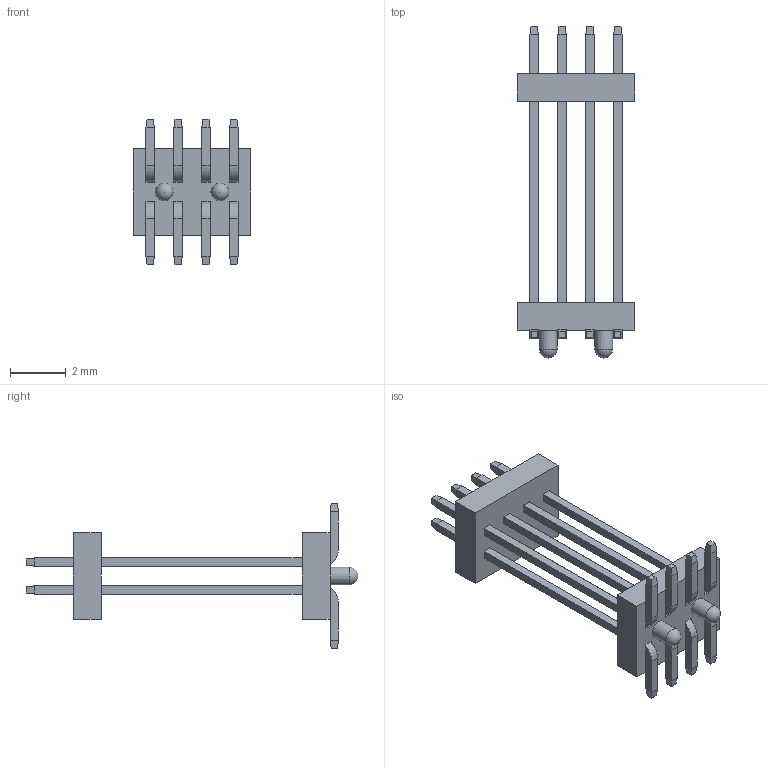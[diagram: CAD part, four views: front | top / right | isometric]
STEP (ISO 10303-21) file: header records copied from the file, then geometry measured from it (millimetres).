
FILE_DESCRIPTION(/* description */ ('STEP AP242','CAx-IF Rec.Pracs.---Representation and Presentation of Product Manufacturing Information (PMI)---4.0---2014-10-13','CAx-IF Rec.Pracs.---3D Tessellated Geometry---0.4---2014-09-14','2;1'),/* implementation_level */ '2;1');
FILE_NAME(/* name */ 'BC055-08A-K1-0170-0950-0520-LB',/* time_stamp */ '2026-06-20T11:46:00+02:00',/* author */ ('License CC BY-ND 4.0'),/* organization */ ('CADENAS'),/* preprocessor_version */ 'ST-DEVELOPER v20',/* originating_system */ 'PARTsolutions',/* authorisation */ ' ');
FILE_SCHEMA (('AP242_MANAGED_MODEL_BASED_3D_ENGINEERING_MIM_LF { 1 0 10303 442 1 1 4 }'));
Length unit declared in the file: millimetre
Products named in the file (4): BC055-08A-K1-0170-0950-0520-LB;  BC055-08A-K1-0170-0950-0520-LB_H;  BC055-08A-K1-0170-0950-0520-LB_P;  BC055-08A-K0-0170-0950-0520-LB_H
Assembly tree (10 placements, depth 2):
  BC055-08A-K1-0170-0950-0520-LB
     BC055-08A-K1-0170-0950-0520-LB_H
     BC055-08A-K1-0170-0950-0520-LB_P  x8
     BC055-08A-K0-0170-0950-0520-LB_H
Bounding box: 4.2 x 11.9 x 5.2 mm (x, y, z)
Volume: 34.4 mm3; surface area: 225.4 mm2
Topology: 10 solids, 10 shells, 216 faces, 526 edges, 330 vertices
Faces by surface type: plane 204, cylinder 10, sphere 2
Full cylindrical faces by diameter (mm): 0.64 x2
Entity records: 3159 total; most frequent: CARTESIAN_POINT 535, ORIENTED_EDGE 514, DIRECTION 479, EDGE_CURVE 257, LINE 251, VECTOR 251, VERTEX_POINT 170, EDGE_LOOP 133
